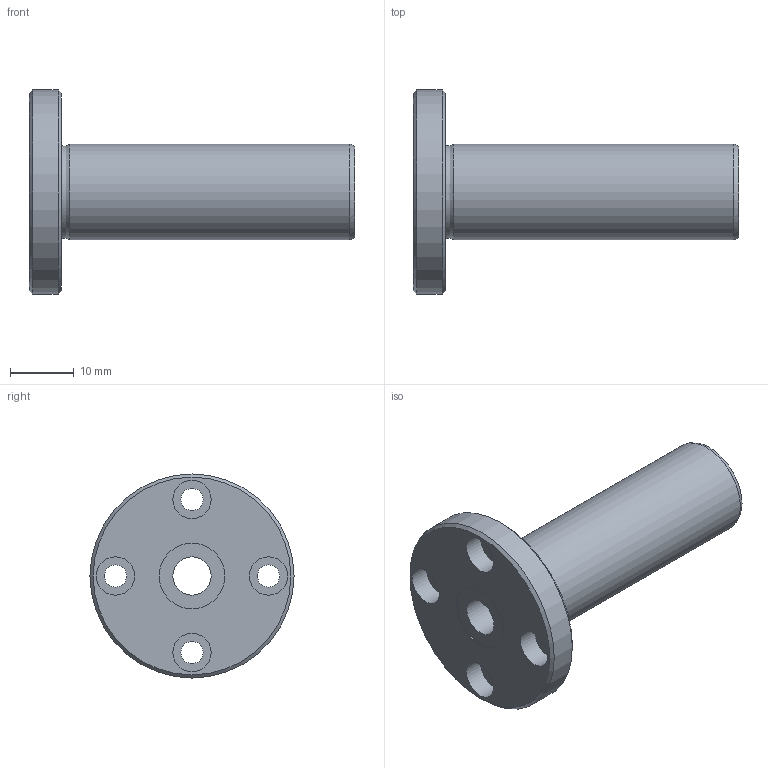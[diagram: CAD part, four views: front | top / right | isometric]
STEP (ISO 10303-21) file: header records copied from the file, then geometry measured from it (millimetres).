
FILE_DESCRIPTION((''),'2;1');
FILE_NAME('D:\製品 (図面)\カタログ用3D\リニアベアリング関連\STEP形式\LFL\LFL6.stp','2010-06-04T08:58:40',('Tsuchiya'),(''),'Autodesk Inventor 10','Autodesk Inventor 10','');
FILE_SCHEMA(('AUTOMOTIVE_DESIGN { 1 0 10303 214 1 1 1 1 }'));
Length unit declared in the file: millimetre
Products named in the file (1): LFL6
Bounding box: 51 x 32 x 32 mm (x, y, z)
Volume: 10221.7 mm3; surface area: 5368 mm2
Topology: 1 solids, 1 shells, 26 faces, 47 edges, 30 vertices
Faces by surface type: cylinder 13, plane 9, cone 2, torus 1, bspline 1
Full cylindrical faces by diameter (mm): 3.5 x4, 6 x5, 10.3 x2, 15 x1, 32 x1
Entity records: 665 total; most frequent: CARTESIAN_POINT 149, DIRECTION 112, ORIENTED_EDGE 60, EDGE_LOOP 60, AXIS2_PLACEMENT_3D 56, FACE_BOUND 34, VERTEX_POINT 30, CIRCLE 30
